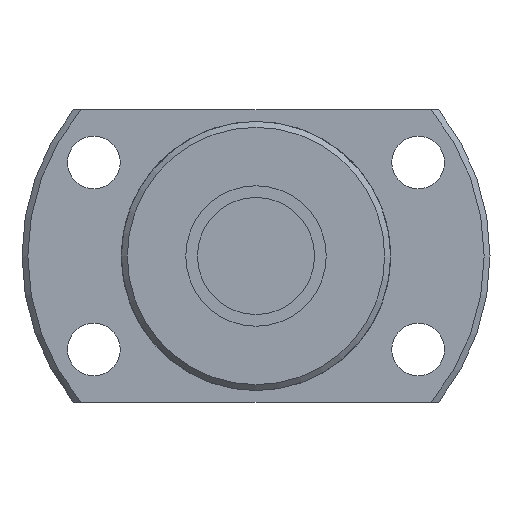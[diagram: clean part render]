
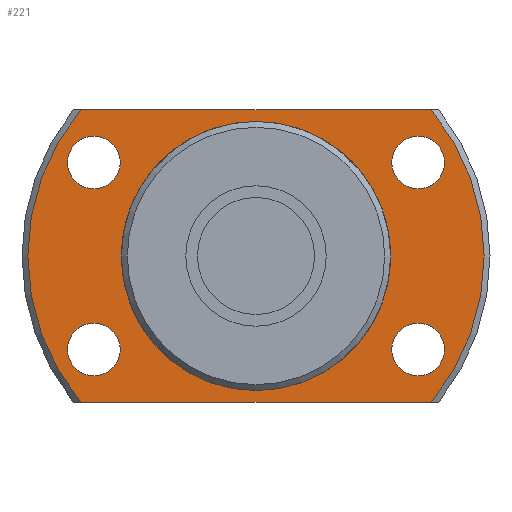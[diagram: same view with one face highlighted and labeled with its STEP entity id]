
A CAD part, left-side view. The second image highlights one B-rep face of the part: STEP entity #221.
In plain terms, the highlighted planar face has unit normal (-1, 0, 0).
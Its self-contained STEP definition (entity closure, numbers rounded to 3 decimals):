
#221 = ADVANCED_FACE( '', ( #354, #355, #356, #357, #358, #359 ), #360, .F. );
#354 = FACE_OUTER_BOUND( '', #501, .T. );
#355 = FACE_BOUND( '', #502, .T. );
#356 = FACE_BOUND( '', #503, .T. );
#357 = FACE_BOUND( '', #504, .T. );
#358 = FACE_BOUND( '', #505, .T. );
#359 = FACE_BOUND( '', #506, .T. );
#360 = PLANE( '', #507 );
#501 = EDGE_LOOP( '', ( #903, #904, #905, #906 ) );
#502 = EDGE_LOOP( '', ( #907 ) );
#503 = EDGE_LOOP( '', ( #908 ) );
#504 = EDGE_LOOP( '', ( #909 ) );
#505 = EDGE_LOOP( '', ( #910 ) );
#506 = EDGE_LOOP( '', ( #911 ) );
#507 = AXIS2_PLACEMENT_3D( '', #912, #913, #914 );
#903 = ORIENTED_EDGE( '', *, *, #984, .F. );
#904 = ORIENTED_EDGE( '', *, *, #1068, .T. );
#905 = ORIENTED_EDGE( '', *, *, #1062, .F. );
#906 = ORIENTED_EDGE( '', *, *, #978, .T. );
#907 = ORIENTED_EDGE( '', *, *, #1028, .T. );
#908 = ORIENTED_EDGE( '', *, *, #1026, .T. );
#909 = ORIENTED_EDGE( '', *, *, #1024, .T. );
#910 = ORIENTED_EDGE( '', *, *, #1022, .T. );
#911 = ORIENTED_EDGE( '', *, *, #1064, .T. );
#912 = CARTESIAN_POINT( '', ( 19., 11.25, 0. ) );
#913 = DIRECTION( '', ( 1., 0., 0. ) );
#914 = DIRECTION( '', ( 0., 0., -1. ) );
#978 = EDGE_CURVE( '', #1129, #1127, #1130, .T. );
#984 = EDGE_CURVE( '', #1140, #1127, #1141, .T. );
#1022 = EDGE_CURVE( '', #1208, #1208, #1209, .T. );
#1024 = EDGE_CURVE( '', #1212, #1212, #1213, .T. );
#1026 = EDGE_CURVE( '', #1216, #1216, #1217, .T. );
#1028 = EDGE_CURVE( '', #1220, #1220, #1221, .T. );
#1062 = EDGE_CURVE( '', #1129, #1273, #1274, .T. );
#1064 = EDGE_CURVE( '', #1276, #1276, #1277, .T. );
#1068 = EDGE_CURVE( '', #1140, #1273, #1282, .T. );
#1127 = VERTEX_POINT( '', #1396 );
#1129 = VERTEX_POINT( '', #1401 );
#1130 = LINE( '', #1402, #1403 );
#1140 = VERTEX_POINT( '', #1424 );
#1141 = CIRCLE( '', #1425, 19.5 );
#1208 = VERTEX_POINT( '', #1531 );
#1209 = CIRCLE( '', #1532, 2.25 );
#1212 = VERTEX_POINT( '', #1535 );
#1213 = CIRCLE( '', #1536, 2.25 );
#1216 = VERTEX_POINT( '', #1539 );
#1217 = CIRCLE( '', #1540, 2.25 );
#1220 = VERTEX_POINT( '', #1543 );
#1221 = CIRCLE( '', #1544, 2.25 );
#1273 = VERTEX_POINT( '', #1617 );
#1274 = CIRCLE( '', #1618, 19.5 );
#1276 = VERTEX_POINT( '', #1623 );
#1277 = CIRCLE( '', #1624, 11.25 );
#1282 = LINE( '', #1629, #1630 );
#1396 = CARTESIAN_POINT( '', ( 19., 14.967, 12.5 ) );
#1401 = CARTESIAN_POINT( '', ( 19., -14.967, 12.5 ) );
#1402 = CARTESIAN_POINT( '', ( 19., 11.25, 12.5 ) );
#1403 = VECTOR( '', #1684, 1000. );
#1424 = CARTESIAN_POINT( '', ( 19., 14.967, -12.5 ) );
#1425 = AXIS2_PLACEMENT_3D( '', #1687, #1688, #1689 );
#1531 = CARTESIAN_POINT( '', ( 19., 13.856, 5.75 ) );
#1532 = AXIS2_PLACEMENT_3D( '', #1750, #1751, #1752 );
#1535 = CARTESIAN_POINT( '', ( 19., 13.856, -10.25 ) );
#1536 = AXIS2_PLACEMENT_3D( '', #1756, #1757, #1758 );
#1539 = CARTESIAN_POINT( '', ( 19., -13.856, -10.25 ) );
#1540 = AXIS2_PLACEMENT_3D( '', #1762, #1763, #1764 );
#1543 = CARTESIAN_POINT( '', ( 19., -13.856, 5.75 ) );
#1544 = AXIS2_PLACEMENT_3D( '', #1768, #1769, #1770 );
#1617 = CARTESIAN_POINT( '', ( 19., -14.967, -12.5 ) );
#1618 = AXIS2_PLACEMENT_3D( '', #1834, #1835, #1836 );
#1623 = CARTESIAN_POINT( '', ( 19., 0., -11.25 ) );
#1624 = AXIS2_PLACEMENT_3D( '', #1837, #1838, #1839 );
#1629 = CARTESIAN_POINT( '', ( 19., 11.25, -12.5 ) );
#1630 = VECTOR( '', #1849, 1000. );
#1684 = DIRECTION( '', ( 0., 1., 0. ) );
#1687 = CARTESIAN_POINT( '', ( 19., 0., 0. ) );
#1688 = DIRECTION( '', ( 1., 0., 0. ) );
#1689 = DIRECTION( '', ( 0., 0., -1. ) );
#1750 = CARTESIAN_POINT( '', ( 19., 13.856, 8. ) );
#1751 = DIRECTION( '', ( 1., 0., 0. ) );
#1752 = DIRECTION( '', ( 0., 0., -1. ) );
#1756 = CARTESIAN_POINT( '', ( 19., 13.856, -8. ) );
#1757 = DIRECTION( '', ( 1., 0., 0. ) );
#1758 = DIRECTION( '', ( 0., 0., -1. ) );
#1762 = CARTESIAN_POINT( '', ( 19., -13.856, -8. ) );
#1763 = DIRECTION( '', ( 1., 0., 0. ) );
#1764 = DIRECTION( '', ( 0., 0., -1. ) );
#1768 = CARTESIAN_POINT( '', ( 19., -13.856, 8. ) );
#1769 = DIRECTION( '', ( 1., 0., 0. ) );
#1770 = DIRECTION( '', ( 0., 0., -1. ) );
#1834 = CARTESIAN_POINT( '', ( 19., 0., 0. ) );
#1835 = DIRECTION( '', ( 1., 0., 0. ) );
#1836 = DIRECTION( '', ( 0., 0., -1. ) );
#1837 = CARTESIAN_POINT( '', ( 19., 0., 0. ) );
#1838 = DIRECTION( '', ( 1., 0., 0. ) );
#1839 = DIRECTION( '', ( 0., 0., -1. ) );
#1849 = DIRECTION( '', ( 0., -1., 0. ) );
